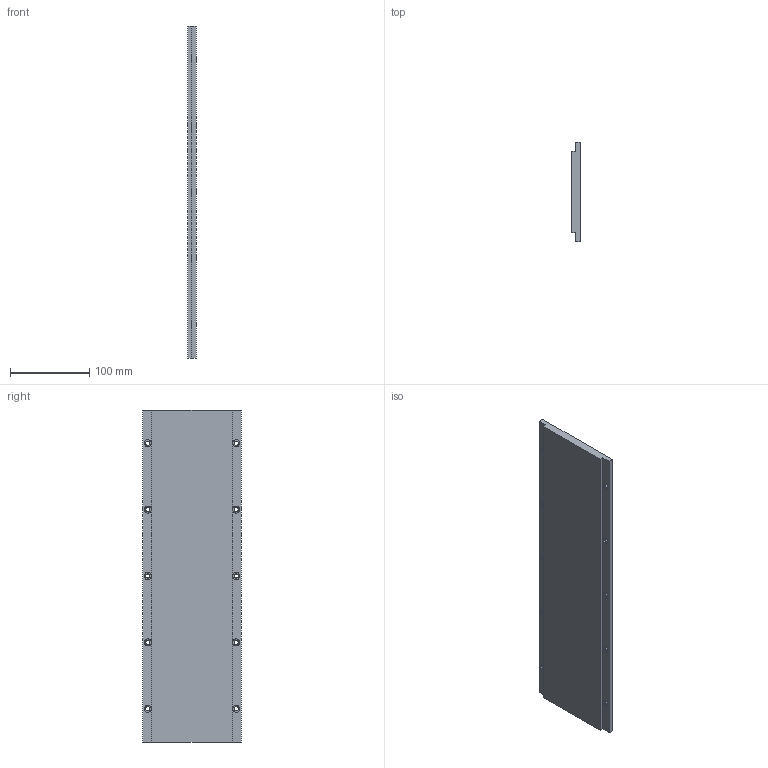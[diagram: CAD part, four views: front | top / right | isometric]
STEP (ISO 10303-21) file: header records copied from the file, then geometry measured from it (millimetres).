
FILE_DESCRIPTION (( 'STEP AP214' ), '1' );
FILE_NAME ('WKM100-420.STEP', '2025-09-05T12:01:18', ( '' ), ( '' ), 'SwSTEP 2.0', 'SolidWorks 2016', '' );
FILE_SCHEMA (( 'AUTOMOTIVE_DESIGN' ));
Length unit declared in the file: millimetre
Products named in the file (1): WKM100-420
Bounding box: 10.8 x 125 x 420 mm (x, y, z)
Volume: 518880.4 mm3; surface area: 117343.4 mm2
Topology: 1 solids, 1 shells, 60 faces, 144 edges, 96 vertices
Faces by surface type: cylinder 40, plane 20
Entity records: 1862 total; most frequent: DIRECTION 346, CARTESIAN_POINT 301, ORIENTED_EDGE 288, EDGE_CURVE 144, AXIS2_PLACEMENT_3D 141, VERTEX_POINT 96, EDGE_LOOP 90, CIRCLE 80
